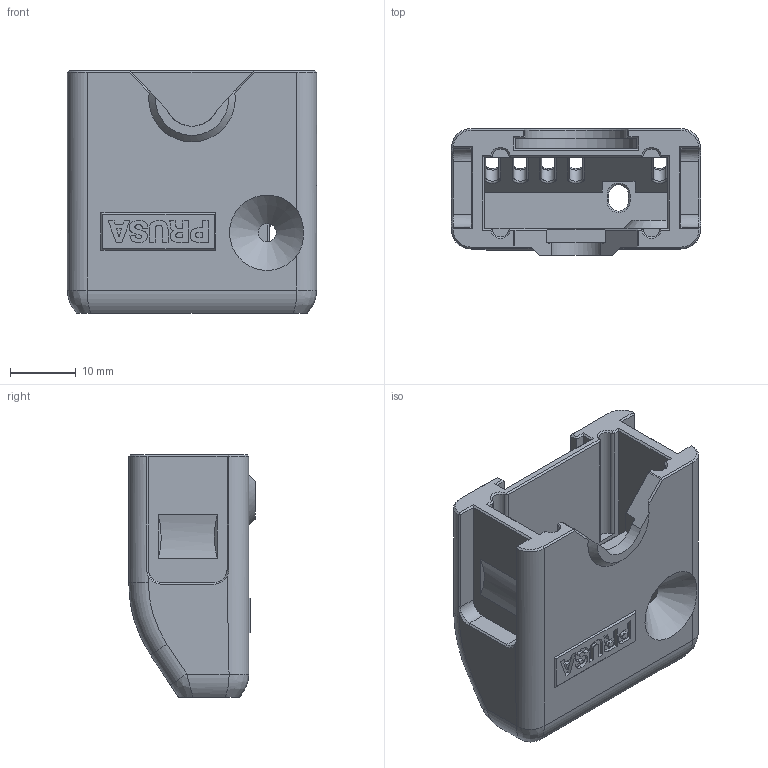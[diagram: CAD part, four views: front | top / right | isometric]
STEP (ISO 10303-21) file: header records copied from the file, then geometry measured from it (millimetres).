
FILE_DESCRIPTION(/* description */ ('STEP AP242','CAx-IF Rec.Pracs.---Representation and Presentation of Product Manufacturing Information (PMI)---4.0---2014-10-13','CAx-IF Rec.Pracs.---3D Tessellated Geometry---0.4---2014-09-14','2;1'),/* implementation_level */ '2;1');
FILE_NAME(/* name */ '66a0cb074748fe6d1b70b67f',/* time_stamp */ '2024-07-24T09:36:08Z',/* author */ (''),/* organization */ (''),/* preprocessor_version */ 'ST-DEVELOPER v20',/* originating_system */ ' ',/* authorisation */ ' ');
FILE_SCHEMA (('AP242_MANAGED_MODEL_BASED_3D_ENGINEERING_MIM_LF { 1 0 10303 442 1 1 4 }'));
Length unit declared in the file: metre
Products named in the file (1): ESP32_Slim_Cam_Case_Bottom_Part
Bounding box: 38 x 19.3 x 36.96 mm (x, y, z)
Volume: 10070.9 mm3; surface area: 8169.8 mm2
Topology: 1 solids, 1 shells, 333 faces, 853 edges, 522 vertices
Faces by surface type: plane 170, cylinder 75, bspline 51, cone 20, torus 17
Entity records: 10541 total; most frequent: CARTESIAN_POINT 2723, ORIENTED_EDGE 1702, DIRECTION 1508, EDGE_CURVE 851, LINE 524, VECTOR 524, VERTEX_POINT 521, AXIS2_PLACEMENT_3D 492
